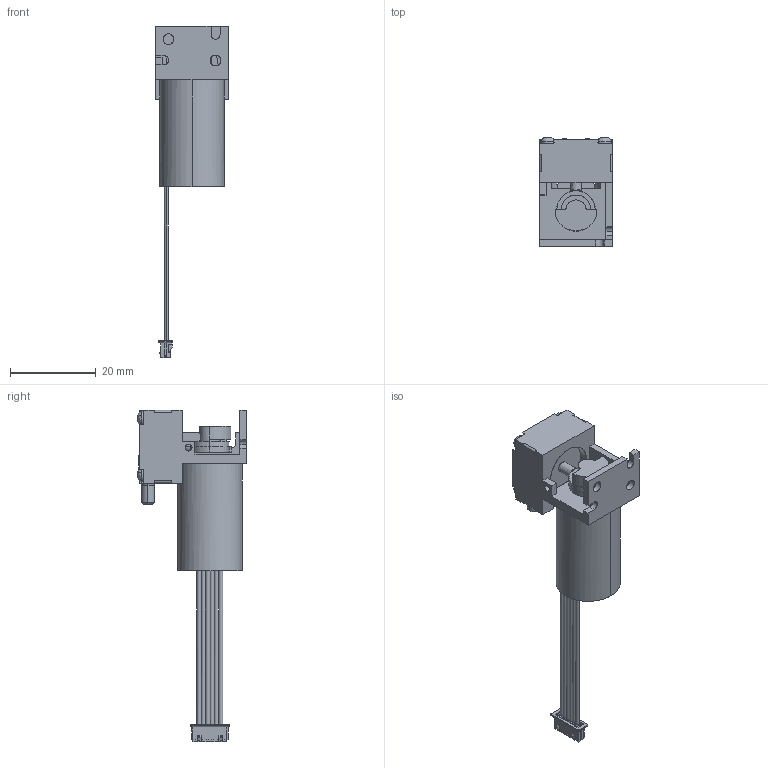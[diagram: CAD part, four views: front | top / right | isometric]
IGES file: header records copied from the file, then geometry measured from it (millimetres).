
Start section: SolidWorks IGES file using analytic representation for surfaces
Global section: file name: Q:\2016\03 Nautilus\41 6410 Shell Creation\20020434-VD-0-D-6V-BLDC-7100-07-EEE-PF\20020434-18.IGS; native system: SolidWorks 2018; preprocessor: SolidWorks 2018; author: hxs2830; date: 190724.091907; units: millimetre
Bounding box: 17 x 25.4 x 77.45 mm (x, y, z)
Surface area: 5106 mm2 (no closed solid volume)
Topology: 0 solids, 0 shells, 531 faces, 4306 edges, 4292 vertices
Faces by surface type: bspline 450, revolution 81
